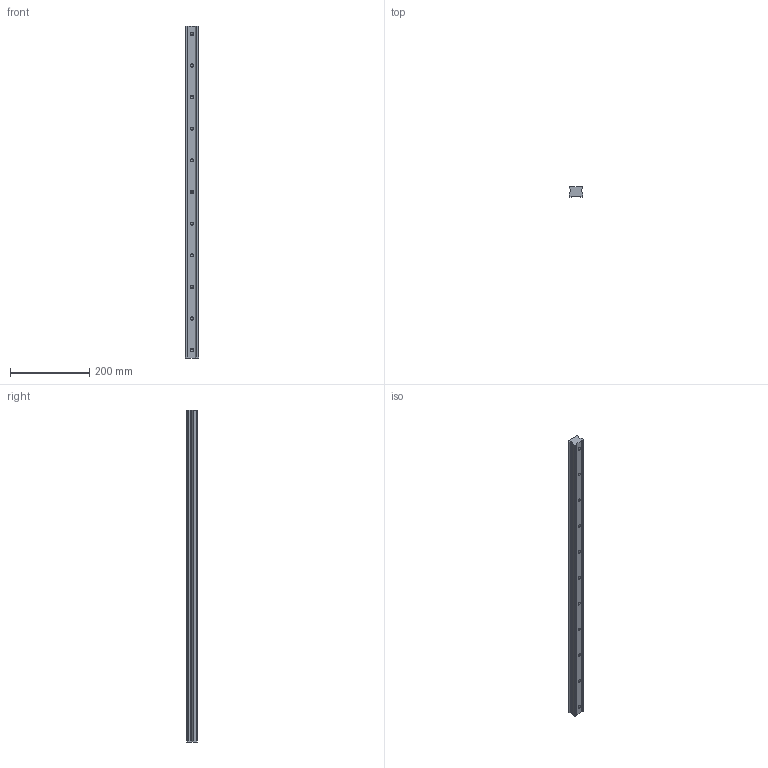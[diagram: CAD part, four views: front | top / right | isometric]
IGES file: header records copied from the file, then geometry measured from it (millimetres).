
Start section: SolidWorks IGES file using analytic representation for surfaces
Global section: file name: C:\Users\IanO\Desktop\Temp File\GENERAL\L1016_v2\L1016.RF35_v2\L1016.RF35_v2_20190612_IGES\L1016.RF35-0840.igs; native system: SolidWorks 2017; preprocessor: SolidWorks 2017; author: IanO; date: 190613.172613; units: millimetre
Bounding box: 34 x 26 x 840 mm (x, y, z)
Surface area: 110709.3 mm2 (no closed solid volume)
Topology: 0 solids, 0 shells, 103 faces, 1488 edges, 1466 vertices
Faces by surface type: revolution 70, bspline 33
